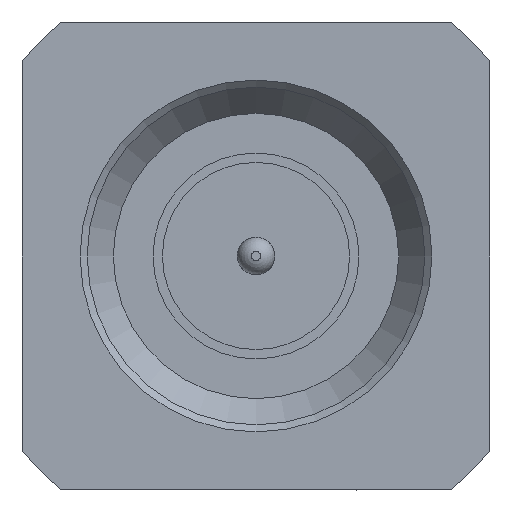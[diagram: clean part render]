
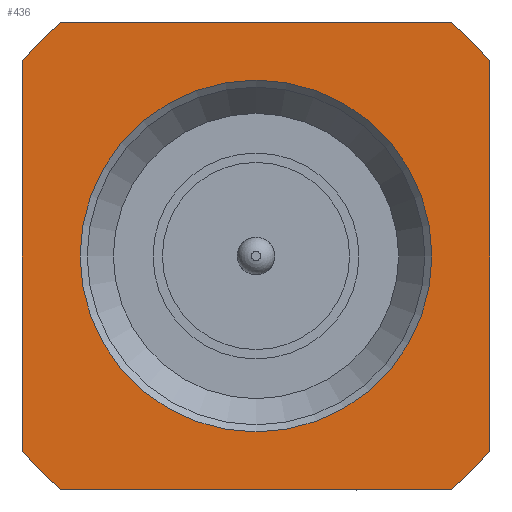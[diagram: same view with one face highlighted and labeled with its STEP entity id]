
A CAD part, left-side view. The second image highlights one B-rep face of the part: STEP entity #436.
In plain terms, the highlighted planar face has unit normal (-1, 0, 0).
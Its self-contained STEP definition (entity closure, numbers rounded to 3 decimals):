
#82=PLANE('',#1487);
#240=LINE('',#2312,#352);
#241=LINE('',#2316,#353);
#242=LINE('',#2320,#354);
#243=LINE('',#2324,#355);
#352=VECTOR('',#1838,1.);
#353=VECTOR('',#1841,1.);
#354=VECTOR('',#1844,1.);
#355=VECTOR('',#1847,1.);
#436=ADVANCED_FACE('',(#504,#505),#82,.F.);
#504=FACE_BOUND('',#583,.T.);
#505=FACE_BOUND('',#584,.T.);
#583=EDGE_LOOP('',(#898));
#584=EDGE_LOOP('',(#899,#900,#901,#902,#903,#904,#905,#906));
#898=ORIENTED_EDGE('',*,*,#1254,.T.);
#899=ORIENTED_EDGE('',*,*,#1265,.F.);
#900=ORIENTED_EDGE('',*,*,#1266,.T.);
#901=ORIENTED_EDGE('',*,*,#1267,.F.);
#902=ORIENTED_EDGE('',*,*,#1268,.T.);
#903=ORIENTED_EDGE('',*,*,#1269,.F.);
#904=ORIENTED_EDGE('',*,*,#1270,.T.);
#905=ORIENTED_EDGE('',*,*,#1271,.F.);
#906=ORIENTED_EDGE('',*,*,#1263,.T.);
#1080=VERTEX_POINT('',#2289);
#1087=VERTEX_POINT('',#2307);
#1088=VERTEX_POINT('',#2309);
#1089=VERTEX_POINT('',#2313);
#1090=VERTEX_POINT('',#2315);
#1091=VERTEX_POINT('',#2317);
#1092=VERTEX_POINT('',#2319);
#1093=VERTEX_POINT('',#2321);
#1094=VERTEX_POINT('',#2323);
#1254=EDGE_CURVE('',#1080,#1080,#1349,.T.);
#1263=EDGE_CURVE('',#1088,#1087,#1353,.T.);
#1265=EDGE_CURVE('',#1089,#1087,#240,.T.);
#1266=EDGE_CURVE('',#1089,#1090,#1354,.T.);
#1267=EDGE_CURVE('',#1091,#1090,#241,.T.);
#1268=EDGE_CURVE('',#1091,#1092,#1355,.T.);
#1269=EDGE_CURVE('',#1093,#1092,#242,.T.);
#1270=EDGE_CURVE('',#1093,#1094,#1356,.T.);
#1271=EDGE_CURVE('',#1088,#1094,#243,.T.);
#1349=CIRCLE('',#1475,1.88);
#1353=CIRCLE('',#1482,3.25);
#1354=CIRCLE('',#1484,3.25);
#1355=CIRCLE('',#1485,3.25);
#1356=CIRCLE('',#1486,3.25);
#1475=AXIS2_PLACEMENT_3D('',#2288,#1814,#1815);
#1482=AXIS2_PLACEMENT_3D('',#2308,#1833,#1834);
#1484=AXIS2_PLACEMENT_3D('',#2314,#1839,#1840);
#1485=AXIS2_PLACEMENT_3D('',#2318,#1842,#1843);
#1486=AXIS2_PLACEMENT_3D('',#2322,#1845,#1846);
#1487=AXIS2_PLACEMENT_3D('',#2325,#1848,#1849);
#1814=DIRECTION('',(1.,0.,0.));
#1815=DIRECTION('',(0.,0.,1.));
#1833=DIRECTION('',(-1.,0.,0.));
#1834=DIRECTION('',(0.,0.639,0.769));
#1838=DIRECTION('',(0.,0.,1.));
#1839=DIRECTION('',(-1.,0.,0.));
#1840=DIRECTION('',(0.,0.769,-0.639));
#1841=DIRECTION('',(0.,1.,0.));
#1842=DIRECTION('',(-1.,0.,0.));
#1843=DIRECTION('',(0.,-0.639,-0.769));
#1844=DIRECTION('',(0.,0.,-1.));
#1845=DIRECTION('',(-1.,0.,0.));
#1846=DIRECTION('',(0.,-0.769,0.639));
#1847=DIRECTION('',(0.,-1.,0.));
#1848=DIRECTION('',(1.,0.,0.));
#1849=DIRECTION('',(0.,0.,-1.));
#2288=CARTESIAN_POINT('',(2.574,0.,2.65));
#2289=CARTESIAN_POINT('',(2.574,0.,4.53));
#2307=CARTESIAN_POINT('',(2.574,2.5,4.727));
#2308=CARTESIAN_POINT('',(2.574,0.,2.65));
#2309=CARTESIAN_POINT('',(2.574,2.077,5.15));
#2312=CARTESIAN_POINT('',(2.574,2.5,0.573));
#2313=CARTESIAN_POINT('',(2.574,2.5,0.573));
#2314=CARTESIAN_POINT('',(2.574,0.,2.65));
#2315=CARTESIAN_POINT('',(2.574,2.077,0.15));
#2316=CARTESIAN_POINT('',(2.574,-2.077,0.15));
#2317=CARTESIAN_POINT('',(2.574,-2.077,0.15));
#2318=CARTESIAN_POINT('',(2.574,0.,2.65));
#2319=CARTESIAN_POINT('',(2.574,-2.5,0.573));
#2320=CARTESIAN_POINT('',(2.574,-2.5,4.727));
#2321=CARTESIAN_POINT('',(2.574,-2.5,4.727));
#2322=CARTESIAN_POINT('',(2.574,0.,2.65));
#2323=CARTESIAN_POINT('',(2.574,-2.077,5.15));
#2324=CARTESIAN_POINT('',(2.574,2.077,5.15));
#2325=CARTESIAN_POINT('',(2.574,-3.648,-1.104));
